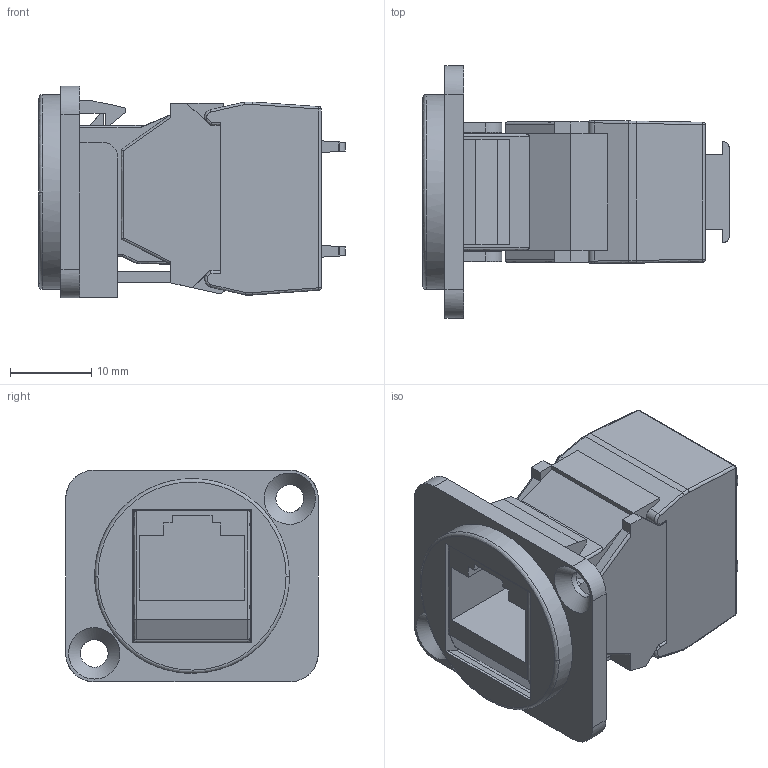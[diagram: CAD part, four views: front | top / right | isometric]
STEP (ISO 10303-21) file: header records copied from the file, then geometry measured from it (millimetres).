
FILE_DESCRIPTION(('FreeCAD Model'),'2;1');
FILE_NAME('Open CASCADE Shape Model','2026-05-14T11:21:05',(''),(''), 'Open CASCADE STEP processor 7.8','FreeCAD','Unknown');
FILE_SCHEMA(('AUTOMOTIVE_DESIGN { 1 0 10303 214 1 1 1 1 }'));
Length unit declared in the file: millimetre
Products named in the file (3): PMNST_C6ASKTS_BK; SY-504S-10G; 3013BUSXLRBK
Assembly tree (2 placements, depth 2):
  PMNST_C6ASKTS_BK
    SY-504S-10G
    3013BUSXLRBK
Bounding box: 37.6 x 31 x 26 mm (x, y, z)
Volume: 11693.5 mm3; surface area: 7771.5 mm2
Topology: 4 solids, 4 shells, 265 faces, 1746 edges, 4662 vertices
Faces by surface type: bspline 265
Entity records: 32304 total; most frequent: CARTESIAN_POINT 21878, B_SPLINE_CURVE_WITH_KNOTS 1746, ORIENTED_EDGE 1380, GEOMETRIC_CURVE_SET 1057, TRIMMED_CURVE 1056, EDGE_CURVE 690, VERTEX_POINT 438, STYLED_ITEM 334
